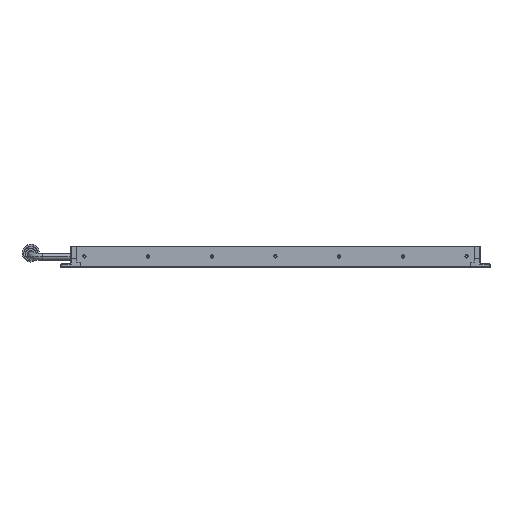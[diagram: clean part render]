
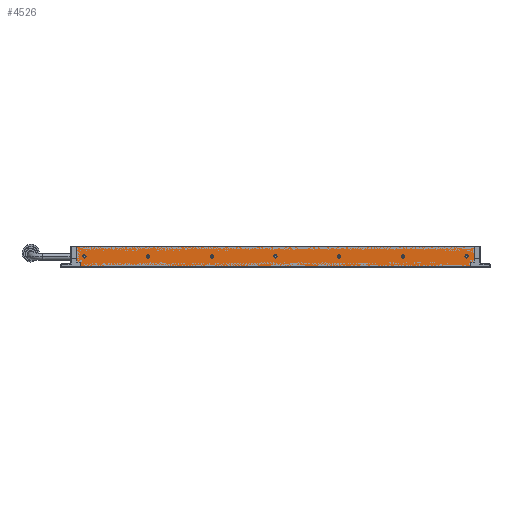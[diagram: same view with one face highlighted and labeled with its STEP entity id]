
A CAD part, top view. The second image highlights one B-rep face of the part: STEP entity #4526.
In plain terms, the highlighted planar face has unit normal (0, 0, 1).
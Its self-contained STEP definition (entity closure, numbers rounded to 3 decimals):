
#4267=DIRECTION('',(-1.,0.,0.));
#4268=VECTOR('',#4267,490.);
#4269=CARTESIAN_POINT('',(245.,-4.8,207.));
#4270=LINE('',#4269,#4268);
#4271=DIRECTION('',(0.,1.,0.));
#4272=VECTOR('',#4271,5.8);
#4273=CARTESIAN_POINT('',(-245.,-4.8,207.));
#4274=LINE('',#4273,#4272);
#4275=DIRECTION('',(-1.,0.,0.));
#4276=VECTOR('',#4275,5.);
#4277=CARTESIAN_POINT('',(-245.,1.,207.));
#4278=LINE('',#4277,#4276);
#4279=DIRECTION('',(0.,1.,0.));
#4280=VECTOR('',#4279,19.5);
#4281=CARTESIAN_POINT('',(-250.,1.,207.));
#4282=LINE('',#4281,#4280);
#4283=DIRECTION('',(1.,0.,0.));
#4284=VECTOR('',#4283,500.);
#4285=CARTESIAN_POINT('',(-250.,20.5,207.));
#4286=LINE('',#4285,#4284);
#4287=DIRECTION('',(0.,-1.,0.));
#4288=VECTOR('',#4287,19.5);
#4289=CARTESIAN_POINT('',(250.,20.5,207.));
#4290=LINE('',#4289,#4288);
#4291=DIRECTION('',(-1.,0.,0.));
#4292=VECTOR('',#4291,5.);
#4293=CARTESIAN_POINT('',(250.,1.,207.));
#4294=LINE('',#4293,#4292);
#4295=DIRECTION('',(0.,-1.,0.));
#4296=VECTOR('',#4295,5.8);
#4297=CARTESIAN_POINT('',(245.,1.,207.));
#4298=LINE('',#4297,#4296);
#4299=CARTESIAN_POINT('',(-240.,8.,207.));
#4300=DIRECTION('',(0.,0.,1.));
#4301=DIRECTION('',(1.,0.,0.));
#4302=AXIS2_PLACEMENT_3D('',#4299,#4300,#4301);
#4304=CARTESIAN_POINT('',(-240.,8.,207.));
#4305=DIRECTION('',(0.,0.,1.));
#4306=DIRECTION('',(-1.,0.,0.));
#4307=AXIS2_PLACEMENT_3D('',#4304,#4305,#4306);
#4309=CARTESIAN_POINT('',(-160.,8.,207.));
#4310=DIRECTION('',(0.,0.,1.));
#4311=DIRECTION('',(1.,0.,0.));
#4312=AXIS2_PLACEMENT_3D('',#4309,#4310,#4311);
#4314=CARTESIAN_POINT('',(-160.,8.,207.));
#4315=DIRECTION('',(0.,0.,1.));
#4316=DIRECTION('',(-1.,0.,0.));
#4317=AXIS2_PLACEMENT_3D('',#4314,#4315,#4316);
#4319=CARTESIAN_POINT('',(-80.,8.,207.));
#4320=DIRECTION('',(0.,0.,1.));
#4321=DIRECTION('',(1.,0.,0.));
#4322=AXIS2_PLACEMENT_3D('',#4319,#4320,#4321);
#4324=CARTESIAN_POINT('',(-80.,8.,207.));
#4325=DIRECTION('',(0.,0.,1.));
#4326=DIRECTION('',(-1.,0.,0.));
#4327=AXIS2_PLACEMENT_3D('',#4324,#4325,#4326);
#4329=CARTESIAN_POINT('',(0.,8.,207.));
#4330=DIRECTION('',(0.,0.,1.));
#4331=DIRECTION('',(1.,0.,0.));
#4332=AXIS2_PLACEMENT_3D('',#4329,#4330,#4331);
#4334=CARTESIAN_POINT('',(0.,8.,207.));
#4335=DIRECTION('',(0.,0.,1.));
#4336=DIRECTION('',(-1.,0.,0.));
#4337=AXIS2_PLACEMENT_3D('',#4334,#4335,#4336);
#4339=CARTESIAN_POINT('',(80.,8.,207.));
#4340=DIRECTION('',(0.,0.,1.));
#4341=DIRECTION('',(1.,0.,0.));
#4342=AXIS2_PLACEMENT_3D('',#4339,#4340,#4341);
#4344=CARTESIAN_POINT('',(80.,8.,207.));
#4345=DIRECTION('',(0.,0.,1.));
#4346=DIRECTION('',(-1.,0.,0.));
#4347=AXIS2_PLACEMENT_3D('',#4344,#4345,#4346);
#4349=CARTESIAN_POINT('',(160.,8.,207.));
#4350=DIRECTION('',(0.,0.,1.));
#4351=DIRECTION('',(1.,0.,0.));
#4352=AXIS2_PLACEMENT_3D('',#4349,#4350,#4351);
#4354=CARTESIAN_POINT('',(160.,8.,207.));
#4355=DIRECTION('',(0.,0.,1.));
#4356=DIRECTION('',(-1.,0.,0.));
#4357=AXIS2_PLACEMENT_3D('',#4354,#4355,#4356);
#4359=CARTESIAN_POINT('',(240.,8.,207.));
#4360=DIRECTION('',(0.,0.,1.));
#4361=DIRECTION('',(1.,0.,0.));
#4362=AXIS2_PLACEMENT_3D('',#4359,#4360,#4361);
#4364=CARTESIAN_POINT('',(240.,8.,207.));
#4365=DIRECTION('',(0.,0.,1.));
#4366=DIRECTION('',(-1.,0.,0.));
#4367=AXIS2_PLACEMENT_3D('',#4364,#4365,#4366);
#4405=CARTESIAN_POINT('',(250.,1.,207.));
#4406=CARTESIAN_POINT('',(245.,1.,207.));
#4407=VERTEX_POINT('',#4405);
#4408=VERTEX_POINT('',#4406);
#4409=CARTESIAN_POINT('',(-250.,1.,207.));
#4410=CARTESIAN_POINT('',(-245.,1.,207.));
#4411=VERTEX_POINT('',#4409);
#4412=VERTEX_POINT('',#4410);
#4417=CARTESIAN_POINT('',(250.,20.5,207.));
#4418=CARTESIAN_POINT('',(-250.,20.5,207.));
#4419=VERTEX_POINT('',#4417);
#4420=VERTEX_POINT('',#4418);
#4425=CARTESIAN_POINT('',(-245.,-4.8,207.));
#4426=CARTESIAN_POINT('',(245.,-4.8,207.));
#4427=VERTEX_POINT('',#4425);
#4428=VERTEX_POINT('',#4426);
#4433=CARTESIAN_POINT('',(-238.,8.,207.));
#4434=CARTESIAN_POINT('',(-242.,8.,207.));
#4435=VERTEX_POINT('',#4433);
#4436=VERTEX_POINT('',#4434);
#4437=CARTESIAN_POINT('',(-158.,8.,207.));
#4438=CARTESIAN_POINT('',(-162.,8.,207.));
#4439=VERTEX_POINT('',#4437);
#4440=VERTEX_POINT('',#4438);
#4441=CARTESIAN_POINT('',(-78.,8.,207.));
#4442=CARTESIAN_POINT('',(-82.,8.,207.));
#4443=VERTEX_POINT('',#4441);
#4444=VERTEX_POINT('',#4442);
#4445=CARTESIAN_POINT('',(2.,8.,207.));
#4446=CARTESIAN_POINT('',(-2.,8.,207.));
#4447=VERTEX_POINT('',#4445);
#4448=VERTEX_POINT('',#4446);
#4449=CARTESIAN_POINT('',(82.,8.,207.));
#4450=CARTESIAN_POINT('',(78.,8.,207.));
#4451=VERTEX_POINT('',#4449);
#4452=VERTEX_POINT('',#4450);
#4453=CARTESIAN_POINT('',(162.,8.,207.));
#4454=CARTESIAN_POINT('',(158.,8.,207.));
#4455=VERTEX_POINT('',#4453);
#4456=VERTEX_POINT('',#4454);
#4457=CARTESIAN_POINT('',(242.,8.,207.));
#4458=CARTESIAN_POINT('',(238.,8.,207.));
#4459=VERTEX_POINT('',#4457);
#4460=VERTEX_POINT('',#4458);
#4461=CARTESIAN_POINT('',(0.,7.85,207.));
#4462=DIRECTION('',(0.,0.,-1.));
#4463=DIRECTION('',(-1.,0.,0.));
#4464=AXIS2_PLACEMENT_3D('',#4461,#4462,#4463);
#4465=PLANE('',#4464);
#4467=ORIENTED_EDGE('',*,*,#4466,.T.);
#4469=ORIENTED_EDGE('',*,*,#4468,.T.);
#4471=ORIENTED_EDGE('',*,*,#4470,.T.);
#4473=ORIENTED_EDGE('',*,*,#4472,.T.);
#4475=ORIENTED_EDGE('',*,*,#4474,.T.);
#4477=ORIENTED_EDGE('',*,*,#4476,.T.);
#4479=ORIENTED_EDGE('',*,*,#4478,.T.);
#4481=ORIENTED_EDGE('',*,*,#4480,.T.);
#4482=EDGE_LOOP('',(#4467,#4469,#4471,#4473,#4475,#4477,#4479,#4481));
#4483=FACE_OUTER_BOUND('',#4482,.F.);
#4485=ORIENTED_EDGE('',*,*,#4484,.T.);
#4487=ORIENTED_EDGE('',*,*,#4486,.T.);
#4488=EDGE_LOOP('',(#4485,#4487));
#4489=FACE_BOUND('',#4488,.F.);
#4491=ORIENTED_EDGE('',*,*,#4490,.T.);
#4493=ORIENTED_EDGE('',*,*,#4492,.T.);
#4494=EDGE_LOOP('',(#4491,#4493));
#4495=FACE_BOUND('',#4494,.F.);
#4497=ORIENTED_EDGE('',*,*,#4496,.T.);
#4499=ORIENTED_EDGE('',*,*,#4498,.T.);
#4500=EDGE_LOOP('',(#4497,#4499));
#4501=FACE_BOUND('',#4500,.F.);
#4503=ORIENTED_EDGE('',*,*,#4502,.T.);
#4505=ORIENTED_EDGE('',*,*,#4504,.T.);
#4506=EDGE_LOOP('',(#4503,#4505));
#4507=FACE_BOUND('',#4506,.F.);
#4509=ORIENTED_EDGE('',*,*,#4508,.T.);
#4511=ORIENTED_EDGE('',*,*,#4510,.T.);
#4512=EDGE_LOOP('',(#4509,#4511));
#4513=FACE_BOUND('',#4512,.F.);
#4515=ORIENTED_EDGE('',*,*,#4514,.T.);
#4517=ORIENTED_EDGE('',*,*,#4516,.T.);
#4518=EDGE_LOOP('',(#4515,#4517));
#4519=FACE_BOUND('',#4518,.F.);
#4521=ORIENTED_EDGE('',*,*,#4520,.T.);
#4523=ORIENTED_EDGE('',*,*,#4522,.T.);
#4524=EDGE_LOOP('',(#4521,#4523));
#4525=FACE_BOUND('',#4524,.F.);
#4526=ADVANCED_FACE('',(#4483,#4489,#4495,#4501,#4507,#4513,#4519,#4525),#4465,
.F.);
#4303=CIRCLE('',#4302,2.);
#4308=CIRCLE('',#4307,2.);
#4313=CIRCLE('',#4312,2.);
#4318=CIRCLE('',#4317,2.);
#4323=CIRCLE('',#4322,2.);
#4328=CIRCLE('',#4327,2.);
#4333=CIRCLE('',#4332,2.);
#4338=CIRCLE('',#4337,2.);
#4343=CIRCLE('',#4342,2.);
#4348=CIRCLE('',#4347,2.);
#4353=CIRCLE('',#4352,2.);
#4358=CIRCLE('',#4357,2.);
#4363=CIRCLE('',#4362,2.);
#4368=CIRCLE('',#4367,2.);
#4466=EDGE_CURVE('',#4428,#4427,#4270,.T.);
#4468=EDGE_CURVE('',#4427,#4412,#4274,.T.);
#4470=EDGE_CURVE('',#4412,#4411,#4278,.T.);
#4472=EDGE_CURVE('',#4411,#4420,#4282,.T.);
#4474=EDGE_CURVE('',#4420,#4419,#4286,.T.);
#4476=EDGE_CURVE('',#4419,#4407,#4290,.T.);
#4478=EDGE_CURVE('',#4407,#4408,#4294,.T.);
#4480=EDGE_CURVE('',#4408,#4428,#4298,.T.);
#4484=EDGE_CURVE('',#4435,#4436,#4303,.T.);
#4486=EDGE_CURVE('',#4436,#4435,#4308,.T.);
#4490=EDGE_CURVE('',#4439,#4440,#4313,.T.);
#4492=EDGE_CURVE('',#4440,#4439,#4318,.T.);
#4496=EDGE_CURVE('',#4443,#4444,#4323,.T.);
#4498=EDGE_CURVE('',#4444,#4443,#4328,.T.);
#4502=EDGE_CURVE('',#4447,#4448,#4333,.T.);
#4504=EDGE_CURVE('',#4448,#4447,#4338,.T.);
#4508=EDGE_CURVE('',#4451,#4452,#4343,.T.);
#4510=EDGE_CURVE('',#4452,#4451,#4348,.T.);
#4514=EDGE_CURVE('',#4455,#4456,#4353,.T.);
#4516=EDGE_CURVE('',#4456,#4455,#4358,.T.);
#4520=EDGE_CURVE('',#4459,#4460,#4363,.T.);
#4522=EDGE_CURVE('',#4460,#4459,#4368,.T.);
